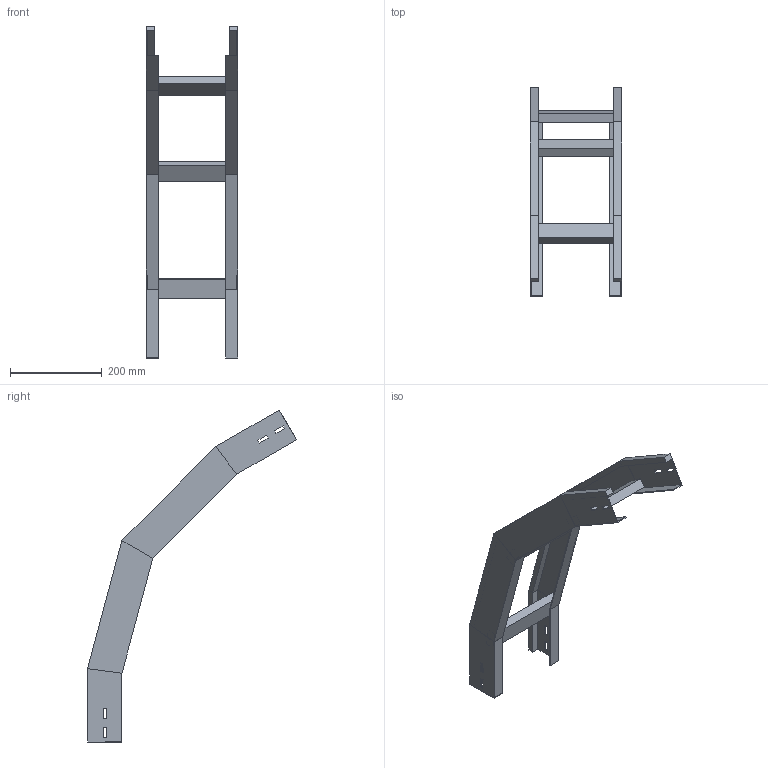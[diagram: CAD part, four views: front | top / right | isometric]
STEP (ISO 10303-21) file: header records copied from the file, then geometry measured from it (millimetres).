
FILE_DESCRIPTION (( 'STEP AP214' ), '1' );
FILE_NAME ('41B5C200.step', '2025-02-21T14:59:19', ( '' ), ( '' ), 'SwSTEP 2.0', 'SolidWorks 2023', '' );
FILE_SCHEMA (( 'AUTOMOTIVE_DESIGN' ));
Length unit declared in the file: millimetre
Products named in the file (3): TRAVERSINO_200; LONGH.DISCESA_60°_H75_R500; 41B5C200
Assembly tree (5 placements, depth 2):
  41B5C200
    LONGH.DISCESA_60°_H75_R500  x2
    TRAVERSINO_200  x3
Bounding box: 200 x 455.08 x 723.27 mm (x, y, z)
Volume: 1155339.7 mm3; surface area: 479206.3 mm2
Topology: 5 solids, 5 shells, 118 faces, 276 edges, 168 vertices
Faces by surface type: plane 118
Entity records: 1672 total; most frequent: CARTESIAN_POINT 276, ORIENTED_EDGE 264, DIRECTION 260, VECTOR 132, LINE 132, EDGE_CURVE 132, VERTEX_POINT 80, AXIS2_PLACEMENT_3D 64
